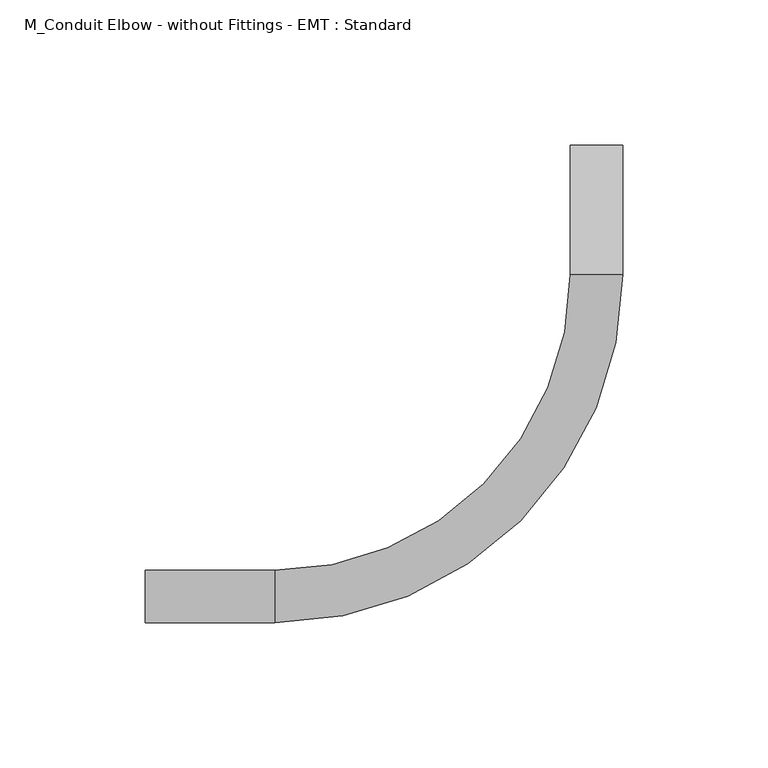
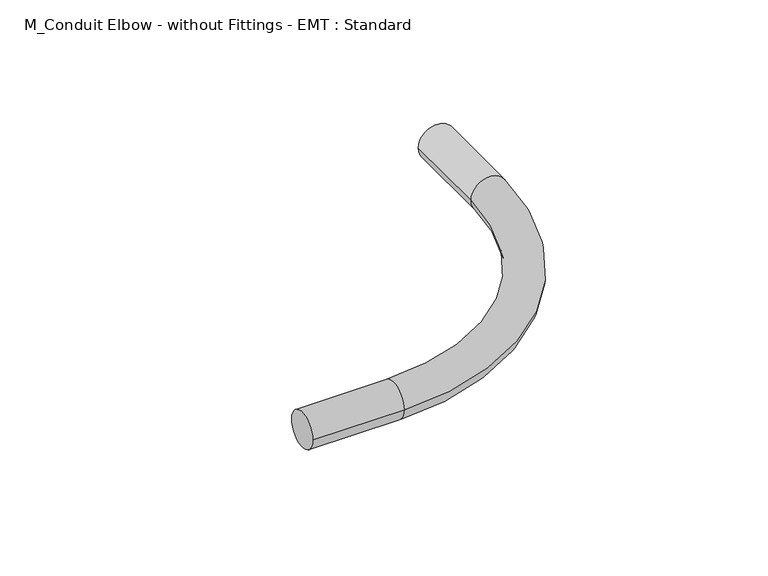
"""IFC4 building model written with IfcOpenShell, lengths in millimetres: cable carrier fitting geometry, M_Conduit Elbow - without Fittings - EMT : Standard."""

from ifc_helpers import new_model, si_unit, point, frame, origin, place, context, project, spatial, circle_curve, ellipse_curve, trimmed, source, transform, mapped, element, save
from ifc_brep_helpers import plane_surface, cylinder_surface, revolved_surface, advanced_brep


def m_conduit_elbow_without_fittings_emt_standard_8d8c0850(model_context):
    return source(origin(), model_context, "Body", "AdvancedBrep", [
        advanced_brep(
        [(-155.0151399, -8.9662, 0.0), (-155.0151399, 8.9662, 0.0), (-110.5651399, -8.9662, 0.0), (-110.5651399, 8.9662, 0.0), (-8.96134, 110.5655339, 0.0), (8.97106, 110.5647457, 0.0), (8.9730138, 155.0147456, 0.0), (-8.9593861, 155.0155339, 0.0)],
        [
            (0, 1, circle_curve(frame((-155.0151399, 0.0, 0.0), z_axis=(-1.0, 0.0, 0.0), x_axis=(0.0, 1.0, 0.0)), 8.9662)),
            (1, 0, circle_curve(frame((-155.0151399, 0.0, 0.0), z_axis=(-1.0, 0.0, 0.0), x_axis=(0.0, 1.0, 0.0)), 8.9662)),
            (0, 2),
            (2, 3, circle_curve(frame((-110.5651399, 0.0, 0.0), z_axis=(-1.0, 0.0, 0.0), x_axis=(0.0, 1.0, 0.0)), 8.9662)),
            (3, 1),
            (3, 2, circle_curve(frame((-110.5651399, 0.0, 0.0), z_axis=(-1.0, 0.0, 0.0), x_axis=(0.0, 1.0, 0.0)), 8.9662)),
            (4, 3, circle_curve(frame((-110.5651399, 110.57, 0.0), z_axis=(0.0, 0.0, -1.0), x_axis=(0.0, -1.0, 0.0)), 101.6038)),
            (2, 5, circle_curve(frame((-110.5651399, 110.57, 0.0), z_axis=(0.0, 0.0, 1.0), x_axis=(0.0, -1.0, 0.0)), 119.5362)),
            (5, 4, circle_curve(frame((0.00486, 110.5651398, 0.0), z_axis=(-4.39560438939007e-05, -0.9999999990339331, 0.0), x_axis=(-0.9999999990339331, 4.39560438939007e-05, 0.0)), 8.9662)),
            (4, 5, circle_curve(frame((0.00486, 110.5651398, 0.0), z_axis=(-4.39560438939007e-05, -0.9999999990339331, 0.0), x_axis=(-0.9999999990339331, 4.39560438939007e-05, 0.0)), 8.9662)),
            (6, 7, circle_curve(frame((0.0068139, 155.0151397, 0.0), z_axis=(4.3956043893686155e-05, 0.9999999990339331, 0.0), x_axis=(-0.9999999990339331, 4.3956043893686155e-05, 0.0)), 8.9662)),
            (7, 6, circle_curve(frame((0.0068139, 155.0151397, 0.0), z_axis=(4.3956043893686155e-05, 0.9999999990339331, 0.0), x_axis=(-0.9999999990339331, 4.3956043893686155e-05, 0.0)), 8.9662)),
            (5, 6),
            (7, 4),
        ],
        [
            plane_surface(frame((-155.0151399, 0.0, 0.0), z_axis=(-1.0, 0.0, 0.0), x_axis=(0.0, 0.0, 1.0))),
            cylinder_surface(frame((-155.0151399, 0.0, 0.0), z_axis=(-1.0, 0.0, 0.0), x_axis=(0.0, 1.0, 0.0)), 8.9662),
            revolved_surface(trimmed(ellipse_curve(frame((-110.5651399, 0.0, 0.0), z_axis=(-1.0, 0.0, 0.0), x_axis=(0.0, 1.0, 0.0)), 8.9662, 8.9662), [point((-110.5651399, -8.9662, 0.0))], [point((-110.5651399, 8.9662, 0.0))], True, "CARTESIAN"), (-110.5651399, 110.57, 0.0), (0.0, 0.0, 1.0)),
            revolved_surface(trimmed(ellipse_curve(frame((-110.5651399, 0.0, 0.0), z_axis=(-1.0, 0.0, 0.0), x_axis=(0.0, 1.0, 0.0)), 8.9662, 8.9662), [point((-110.5651399, 8.9662, 0.0))], [point((-110.5651399, -8.9662, 0.0))], True, "CARTESIAN"), (-110.5651399, 110.57, 0.0), (0.0, 0.0, 1.0)),
            plane_surface(frame((0.0068139, 155.0151397, 0.0), z_axis=(4.3956043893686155e-05, 0.9999999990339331, 0.0), x_axis=(0.0, 0.0, 1.0))),
            cylinder_surface(frame((0.00486, 110.5651398, 0.0), z_axis=(-4.3956043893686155e-05, -0.9999999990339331, 0.0), x_axis=(-0.9999999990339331, 4.3956043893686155e-05, 0.0)), 8.9662),
        ],
        [
            (0, [[1, 2]]),
            (1, [[-1, 3, 4, 5]]),
            (1, [[-2, -5, 6, -3]]),
            (2, [[7, -4, 8, 9]]),
            (3, [[-8, -6, -7, 10]]),
            (4, [[11, 12]]),
            (5, [[-9, 13, -12, 14]]),
            (5, [[-10, -14, -11, -13]]),
        ],
    ),
    ])


if __name__ == "__main__":
    model = new_model("IFC4")
    model_context = context("Model", 3, world=origin())
    ifc_project = project(units=[si_unit("LENGTHUNIT", "METRE", prefix="MILLI")], contexts=[model_context])
    site = spatial("IfcSite", under=ifc_project)
    building = spatial("IfcBuilding", under=site)
    placement = place(None, origin())
    m_conduit_elbow_without_fittings_emt_standard_shape = m_conduit_elbow_without_fittings_emt_standard_8d8c0850(model_context)
    element("IfcCableCarrierFitting", 1, ObjectType="M_Conduit Elbow - without Fittings - EMT : Standard", at=placement, inside=building, context=model_context, shape_type="MappedRepresentation", body=[
        mapped(m_conduit_elbow_without_fittings_emt_standard_shape, transform((0.0, 0.0, 0.0), x_axis=(1.0, 0.0, 0.0), y_axis=(0.0, 1.0, 0.0), z_axis=(0.0, 0.0, 1.0))),
    ])
    save(model, "model.ifc")
